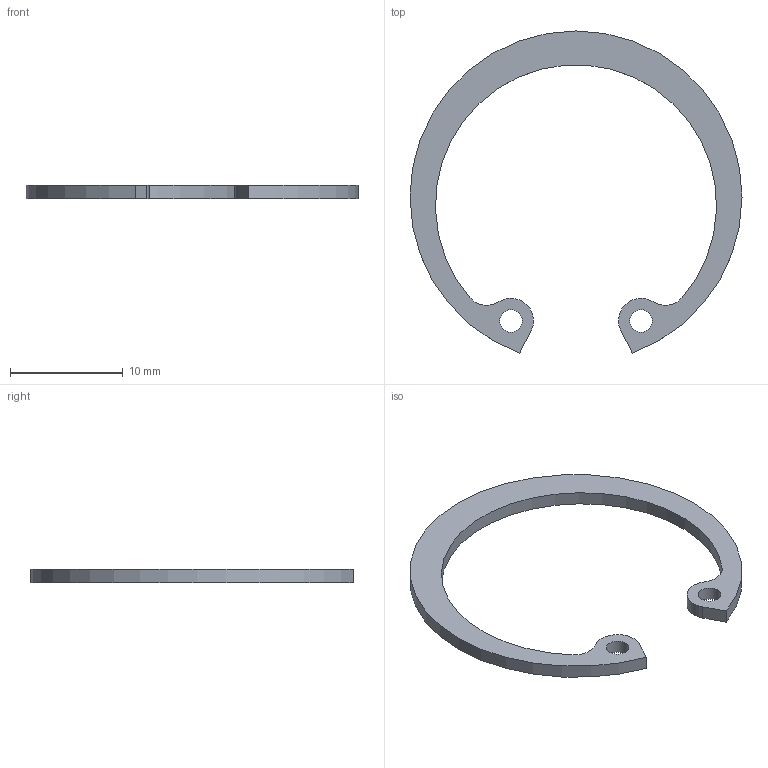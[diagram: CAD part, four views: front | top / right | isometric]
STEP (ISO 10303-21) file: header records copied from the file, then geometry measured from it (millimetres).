
FILE_DESCRIPTION(/* description */ ('리테이닝 링(C형)'),/* implementation_level */ '2;1');
FILE_NAME(/* name */ '',/* time_stamp */ '2026-07-31T13:50:49+09:00',/* author */ ('jhkim'),/* organization */ (''),/* preprocessor_version */ 'ST-DEVELOPER v20.1',/* originating_system */ 'Autodesk Inventor 2027',/* authorisation */ '');
FILE_SCHEMA (('AUTOMOTIVE_DESIGN { 1 0 10303 214 3 1 1 }'));
Length unit declared in the file: millimetre
Products named in the file (1): C형 멈춤링 구멍용 
28
Bounding box: 29.4 x 28.52 x 1.2 mm (x, y, z)
Volume: 228.9 mm3; surface area: 588 mm2
Topology: 1 solids, 1 shells, 12 faces, 30 edges, 20 vertices
Faces by surface type: cylinder 8, plane 4
Full cylindrical faces by diameter (mm): 2 x2
Entity records: 421 total; most frequent: DIRECTION 72, CARTESIAN_POINT 63, ORIENTED_EDGE 60, EDGE_CURVE 30, AXIS2_PLACEMENT_3D 29, VERTEX_POINT 20, EDGE_LOOP 16, CIRCLE 16
